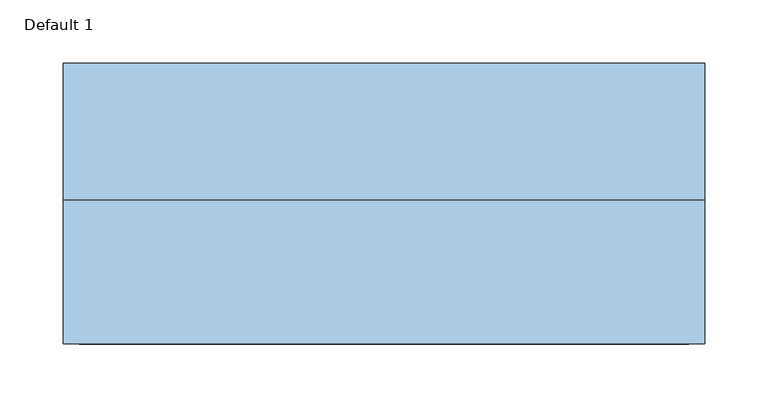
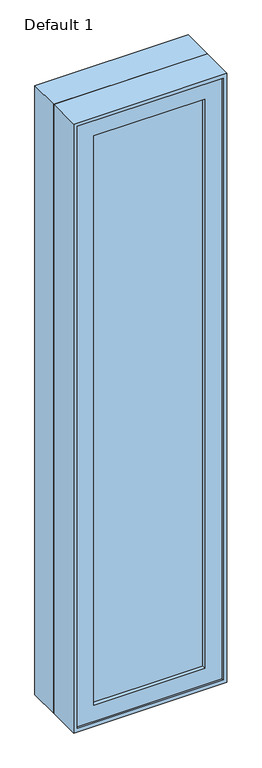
"""IFC4 building model written with IfcOpenShell, lengths in millimetres: window geometry, Planitar-Casement-Single_Left : Default 1."""

from ifc_helpers import new_model, si_unit, frame, origin, place, context, project, spatial, polyline, outline, extrude, faceted_brep, source, transform, mapped, element, save


def default_1_da3bdc25(model_context):
    return source(origin(), model_context, "Body", "SolidModel", [
        extrude(outline(polyline([(184.15, -101.6), (-184.15, -101.6), (-184.15, -95.25), (184.15, -95.25), (184.15, -101.6)])), frame((0.0, 0.0, 984.25), z_axis=(0.0, 0.0, 1.0), x_axis=(1.0, 0.0, 0.0)), (0.0, 0.0, 1.0), 1993.9),
        extrude(outline(polyline([(-184.15, -82.55), (184.15, -82.55), (184.15, -88.9), (-184.15, -88.9), (-184.15, -82.55)])), frame((0.0, 0.0, 984.25), z_axis=(0.0, 0.0, 1.0), x_axis=(1.0, 0.0, 0.0)), (0.0, 0.0, 1.0), 1993.9),
        extrude(outline(polyline([(3035.3, 241.3), (3035.3, -241.3), (927.1, -241.3), (927.1, 241.3), (3035.3, 241.3)]), holes=[polyline([(2978.15, -184.15), (2978.15, 184.15), (984.25, 184.15), (984.25, -184.15), (2978.15, -184.15)])]), frame((0.0, -114.3, 0.0), z_axis=(0.0, 1.0, 0.0), x_axis=(0.0, 0.0, 1.0)), (0.0, 0.0, 1.0), 44.45),
        extrude(outline(polyline([(3048.0, -254.0), (914.4, -254.0), (914.4, 254.0), (3048.0, 254.0), (3048.0, -254.0)]), holes=[polyline([(3028.95, 234.95), (933.45, 234.95), (933.45, -234.95), (3028.95, -234.95), (3028.95, 234.95)])]), frame((0.0, -6.35, 0.0), z_axis=(0.0, 1.0, 0.0), x_axis=(0.0, 0.0, 1.0)), (0.0, 0.0, 1.0), 107.95),
        faceted_brep([(222.25, -69.85, 3016.25), (-222.25, -69.85, 3016.25), (-222.25, -6.35, 3016.25), (222.25, -6.35, 3016.25), (241.3, -120.65, 3035.3), (-241.3, -120.65, 3035.3), (-241.3, -69.85, 3035.3), (241.3, -69.85, 3035.3), (254.0, -6.35, 3048.0), (-254.0, -6.35, 3048.0), (-254.0, -120.65, 3048.0), (254.0, -120.65, 3048.0), (-222.25, -69.85, 946.15), (-222.25, -6.35, 946.15), (-241.3, -120.65, 927.1), (-241.3, -69.85, 927.1), (-254.0, -6.35, 914.4), (-254.0, -120.65, 914.4), (222.25, -69.85, 946.15), (222.25, -6.35, 946.15), (241.3, -120.65, 927.1), (241.3, -69.85, 927.1), (254.0, -6.35, 914.4), (254.0, -120.65, 914.4)], [[[0, 1, 2, 3]], [[4, 5, 6, 7]], [[8, 9, 10, 11]], [[1, 12, 13, 2]], [[5, 14, 15, 6]], [[9, 16, 17, 10]], [[12, 18, 19, 13]], [[14, 20, 21, 15]], [[16, 22, 23, 17]], [[9, 8, 22, 16], [3, 2, 13, 19]], [[18, 0, 3, 19]], [[7, 6, 15, 21], [1, 0, 18, 12]], [[20, 4, 7, 21]], [[22, 8, 11, 23]], [[11, 10, 17, 23], [5, 4, 20, 14]]]),
    ])


if __name__ == "__main__":
    model = new_model("IFC4")
    model_context = context("Model", 3, world=origin())
    ifc_project = project(units=[si_unit("LENGTHUNIT", "METRE", prefix="MILLI")], contexts=[model_context])
    site = spatial("IfcSite", under=ifc_project)
    building = spatial("IfcBuilding", under=site)
    placement = place(None, origin())
    default_1_shape = default_1_da3bdc25(model_context)
    element("IfcWindow", 1, ObjectType="Planitar-Casement-Single_Left : Default 1", at=placement, inside=building, context=model_context, shape_type="MappedRepresentation", body=[
        mapped(default_1_shape, transform((0.0, 0.0, 0.0), x_axis=(1.0, 0.0, 0.0), y_axis=(0.0, 1.0, 0.0), z_axis=(0.0, 0.0, 1.0))),
    ])
    save(model, "model.ifc")
